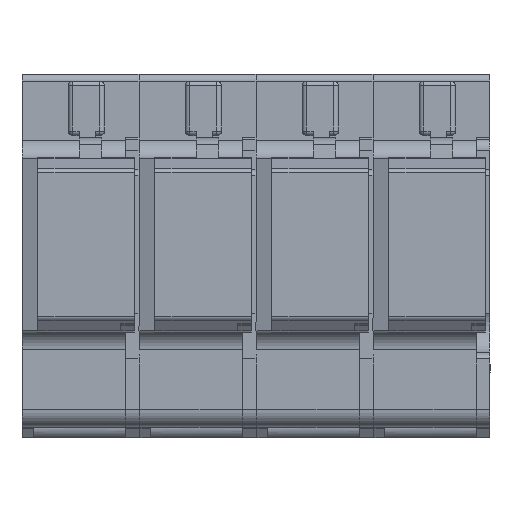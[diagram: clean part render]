
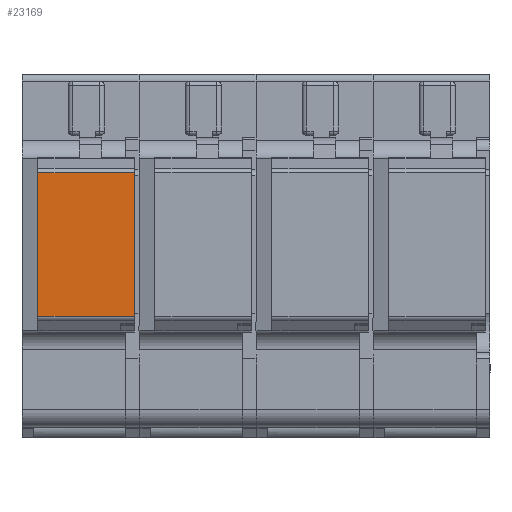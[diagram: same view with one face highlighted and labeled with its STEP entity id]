
A CAD part, front view. The second image highlights one B-rep face of the part: STEP entity #23169.
In plain terms, the highlighted planar face has unit normal (0, -1, 0).
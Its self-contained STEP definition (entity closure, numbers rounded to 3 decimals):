
#74 = EDGE_CURVE ( 'NONE', #9509, #17433, #15643, .T. ) ;
#984 = VECTOR ( 'NONE', #24616, 1000. ) ;
#2796 = ORIENTED_EDGE ( 'NONE', *, *, #17629, .F. ) ;
#4016 = CARTESIAN_POINT ( 'NONE',  ( -1.875, -20.088, 3.656 ) ) ;
#4025 = AXIS2_PLACEMENT_3D ( 'NONE', #7452, #27614, #12397 ) ;
#5274 = DIRECTION ( 'NONE',  ( 0., 0., 1. ) ) ;
#6878 = CARTESIAN_POINT ( 'NONE',  ( -1.875, -20.088, -8. ) ) ;
#7452 = CARTESIAN_POINT ( 'NONE',  ( 2.575, -20.087, -2.656 ) ) ;
#7622 = PLANE ( 'NONE',  #4025 ) ;
#9509 = VERTEX_POINT ( 'NONE', #31210 ) ;
#12397 = DIRECTION ( 'NONE',  ( 0., 0., 1. ) ) ;
#12422 = CARTESIAN_POINT ( 'NONE',  ( 2.375, -20.088, -8. ) ) ;
#15332 = EDGE_CURVE ( 'NONE', #9509, #23010, #22519, .T. ) ;
#15643 = LINE ( 'NONE', #25422, #30971 ) ;
#17433 = VERTEX_POINT ( 'NONE', #20639 ) ;
#17629 = EDGE_CURVE ( 'NONE', #17433, #18515, #28788, .T. ) ;
#18515 = VERTEX_POINT ( 'NONE', #4016 ) ;
#18811 = ORIENTED_EDGE ( 'NONE', *, *, #15332, .T. ) ;
#19865 = ORIENTED_EDGE ( 'NONE', *, *, #26860, .T. ) ;
#20609 = DIRECTION ( 'NONE',  ( -1., 0., 0. ) ) ;
#20637 = ORIENTED_EDGE ( 'NONE', *, *, #74, .F. ) ;
#20639 = CARTESIAN_POINT ( 'NONE',  ( -1.875, -20.088, -2.656 ) ) ;
#21210 = CARTESIAN_POINT ( 'NONE',  ( 2.575, -20.087, 3.656 ) ) ;
#22519 = LINE ( 'NONE', #12422, #984 ) ;
#23010 = VERTEX_POINT ( 'NONE', #26670 ) ;
#23169 = ADVANCED_FACE ( 'NONE', ( #27140 ), #7622, .F. ) ;
#23951 = DIRECTION ( 'NONE',  ( -1., 0., 0. ) ) ;
#24616 = DIRECTION ( 'NONE',  ( 0., 0., 1. ) ) ;
#24757 = VECTOR ( 'NONE', #23951, 1000. ) ;
#25422 = CARTESIAN_POINT ( 'NONE',  ( 2.575, -20.087, -2.656 ) ) ;
#26666 = LINE ( 'NONE', #21210, #24757 ) ;
#26670 = CARTESIAN_POINT ( 'NONE',  ( 2.375, -20.088, 3.656 ) ) ;
#26860 = EDGE_CURVE ( 'NONE', #23010, #18515, #26666, .T. ) ;
#27140 = FACE_OUTER_BOUND ( 'NONE', #31584, .T. ) ;
#27614 = DIRECTION ( 'NONE',  ( 0., 1., 0. ) ) ;
#28788 = LINE ( 'NONE', #6878, #31568 ) ;
#30971 = VECTOR ( 'NONE', #20609, 1000. ) ;
#31210 = CARTESIAN_POINT ( 'NONE',  ( 2.375, -20.088, -2.656 ) ) ;
#31568 = VECTOR ( 'NONE', #5274, 1000. ) ;
#31584 = EDGE_LOOP ( 'NONE', ( #19865, #2796, #20637, #18811 ) ) ;
